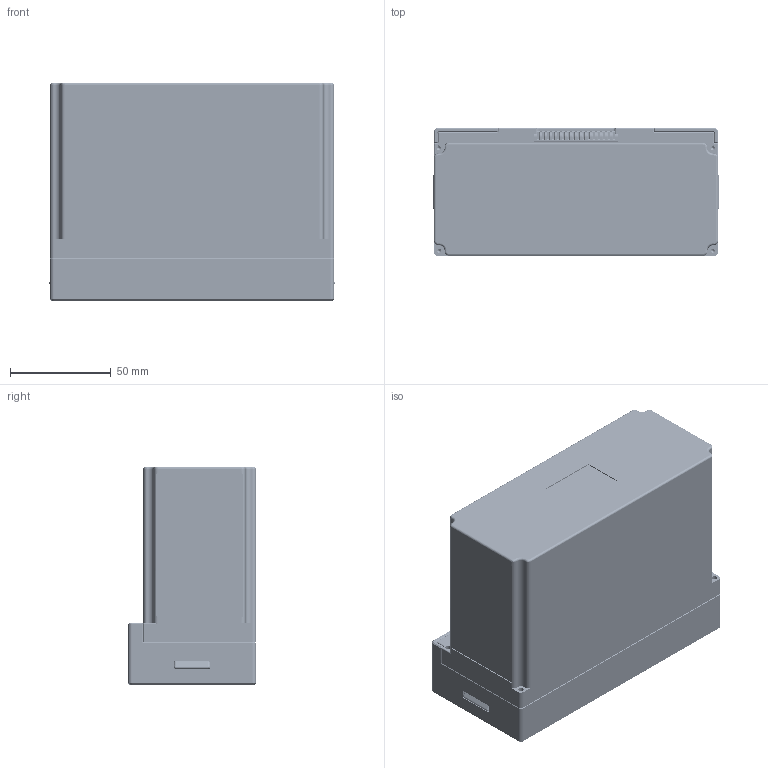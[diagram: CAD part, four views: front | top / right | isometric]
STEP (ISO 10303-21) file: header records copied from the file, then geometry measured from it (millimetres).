
FILE_DESCRIPTION (( 'STEP AP203' ), '1' );
FILE_NAME ('HTPW 01A-48vPower battery v1.STEP', '2025-06-23T15:37:23', ( '' ), ( '' ), 'SwSTEP 2.0', 'SolidWorks 2024', '' );
FILE_SCHEMA (( 'CONFIG_CONTROL_DESIGN' ));
Length unit declared in the file: millimetre
Products named in the file (44): U3~TQFP-48_L7.0-W7.0-P0.50-LS9.0-TL~TQFP-48_L7.0-W7.0-H1.2-LS9.0-P0.50~kTTu.step; RS1~R2512~R2512_L6.3-W3.2-H0.6~kTTu.step; R1~R1206~R1206_L3.2-W1.6-H0.6~kTTu_2.step; U1~M2-D2.8-BD4.4~M2-D2.8-BD4.4~kTTu_1.step; D8~SMC_L7.1-W6.2-LS8.1-RD~SMC_L7.1-W6.2-LS8.1-RD~kTTu.step; H3~battery-female-TH_16P-P2.50-H-M-W3.5~.step; R1~R1206~R1206_L3.2-W1.6-H0.6~kTTu_1.step; CN4~SMD--1_L5.0-W2.0~SMD--1_L5.0-W2.0~kTTu_3.step; D7~SMB_L4.6-W3.6-LS5.3-RD~SMB_L4.6-W3.6-LS5.3-RD~kTTu.step; CN2~CONN-SMD_2P-P1.25_X1251WRS-02HF-LPSW~CONN-SMD_GH1.25-WS-2P~kTTu.step; Board~kTTu.step; R1~R1206~R1206_L3.2-W1.6-H0.6~kTTu.step; R1~R1206~R1206_L3.2-W1.6-H0.6~kTTu_4.step; L1~IND-SMD_L7.1-W6.6-1~IND-SMD_L7.1-W6.6-1~kTTu.step; CN4~SMD--1_L5.0-W2.0~SMD--1_L5.0-W2.0~kTTu_2.step; HTPW 48PW-02A-电池上盖.step; SMD--1_L5.0-W2.0~SMD--1_L5.0-W2.0~kTTu.step; Q13~SOT-89-3_L4.5-W2.5-P1.50-LS4.2-TR~SOT-89-3_L4.3-W2.5-H1.6-LS4.1-P1.50~kTTu.step; HTPW 01A-48vPower battery v1.step; TO-263-3_L10.1-W9.0-P5.08-LS15.2-BL~TO-263-3_L10.1-W9.0-P5.08-LS15.2-BL~kTTu.step; TQFP-48_L7.0-W7.0-P0.50-LS9.0-TL~TQFP-48_L7.0-W7.0-H1.2-LS9.0-P0.50~kTTu.step; HTPW 48PW-02A-电池下壳.step; Q3~TO-263-3_L10.1-W9.0-P5.08-LS15.2-BL~TO-263-3_L10.1-W9.0-P5.08-LS15.2-BL~kTTu_1.step; HTPW 48PW-02A-电池卡舌.step; CN4~SMD--1_L5.0-W2.0~SMD--1_L5.0-W2.0~kTTu_1.step; R1~R1206~R1206_L3.2-W1.6-H0.6~kTTu_3.step; IND-SMD_L7.1-W6.6-1~IND-SMD_L7.1-W6.6-1~kTTu.step; SOT-89-3_L4.5-W2.5-P1.50-LS4.2-TR~SOT-89-3_L4.3-W2.5-H1.6-LS4.1-P1.50~kTTu.step; SMC_L7.1-W6.2-LS8.1-RD~SMC_L7.1-W6.2-LS8.1-RD~kTTu.step; R2512~R2512_L6.3-W3.2-H0.6~kTTu.step; EasyEDA PCB Model~kTTu.step; LGF4118-L7.0雾白.step; LQFP-48_L7.0-W7.0-P0.50-LS9.0-BL~LQFP-48_L7.0-W7.0-H1.4-LS9.0-P0.50~kTTu.step; HTPW 48PW-02A-卡舌盖板.step; HTPW 01A-48vPower battery v1; CONN-SMD_2P-P1.25_X1251WRS-02HF-LPSW~CONN-SMD_GH1.25-WS-2P~kTTu.step; SMB_L4.6-W3.6-LS5.3-RD~SMB_L4.6-W3.6-LS5.3-RD~kTTu.step; U8~LQFP-48_L7.0-W7.0-P0.50-LS9.0-BL~LQFP-48_L7.0-W7.0-H1.4-LS9.0-P0.50~kTTu.step; battery-female-TH_16P-P2.50-H-M-W3.5~.step; HTPW 48PW-02A-电池按钮.step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
Assembly tree (54 placements, depth 5):
  HTPW 01A-48vPower battery v1
    HTPW 01A-48vPower battery v1.step
      EasyEDA PCB Model~kTTu.step
        CN2~CONN-SMD_2P-P1.25_X1251WRS-02HF-LPSW~CONN-SMD_GH1.25-WS-2P~kTTu.step
          CONN-SMD_2P-P1.25_X1251WRS-02HF-LPSW~CONN-SMD_GH1.25-WS-2P~kTTu.step
        L1~IND-SMD_L7.1-W6.6-1~IND-SMD_L7.1-W6.6-1~kTTu.step
          IND-SMD_L7.1-W6.6-1~IND-SMD_L7.1-W6.6-1~kTTu.step
        D8~SMC_L7.1-W6.2-LS8.1-RD~SMC_L7.1-W6.2-LS8.1-RD~kTTu.step
          SMC_L7.1-W6.2-LS8.1-RD~SMC_L7.1-W6.2-LS8.1-RD~kTTu.step
        D7~SMB_L4.6-W3.6-LS5.3-RD~SMB_L4.6-W3.6-LS5.3-RD~kTTu.step
          SMB_L4.6-W3.6-LS5.3-RD~SMB_L4.6-W3.6-LS5.3-RD~kTTu.step
        Q13~SOT-89-3_L4.5-W2.5-P1.50-LS4.2-TR~SOT-89-3_L4.3-W2.5-H1.6-LS4.1-P1.50~kTTu.step
          SOT-89-3_L4.5-W2.5-P1.50-LS4.2-TR~SOT-89-3_L4.3-W2.5-H1.6-LS4.1-P1.50~kTTu.step
        R1~R1206~R1206_L3.2-W1.6-H0.6~kTTu.step
          R1206~R1206_L3.2-W1.6-H0.6~kTTu.step
        RS1~R2512~R2512_L6.3-W3.2-H0.6~kTTu.step
          R2512~R2512_L6.3-W3.2-H0.6~kTTu.step
        H3~battery-female-TH_16P-P2.50-H-M-W3.5~.step
          battery-female-TH_16P-P2.50-H-M-W3.5~.step
        U3~TQFP-48_L7.0-W7.0-P0.50-LS9.0-TL~TQFP-48_L7.0-W7.0-H1.2-LS9.0-P0.50~kTTu.step
          TQFP-48_L7.0-W7.0-P0.50-LS9.0-TL~TQFP-48_L7.0-W7.0-H1.2-LS9.0-P0.50~kTTu.step
        U8~LQFP-48_L7.0-W7.0-P0.50-LS9.0-BL~LQFP-48_L7.0-W7.0-H1.4-LS9.0-P0.50~kTTu.step
          LQFP-48_L7.0-W7.0-P0.50-LS9.0-BL~LQFP-48_L7.0-W7.0-H1.4-LS9.0-P0.50~kTTu.step
        Q3~TO-263-3_L10.1-W9.0-P5.08-LS15.2-BL~TO-263-3_L10.1-W9.0-P5.08-LS15.2-BL~kTTu_1.step
          TO-263-3_L10.1-W9.0-P5.08-LS15.2-BL~TO-263-3_L10.1-W9.0-P5.08-LS15.2-BL~kTTu.step
        R1~R1206~R1206_L3.2-W1.6-H0.6~kTTu_1.step
          R1206~R1206_L3.2-W1.6-H0.6~kTTu.step
        R1~R1206~R1206_L3.2-W1.6-H0.6~kTTu_2.step
          R1206~R1206_L3.2-W1.6-H0.6~kTTu.step
        R1~R1206~R1206_L3.2-W1.6-H0.6~kTTu_3.step
          R1206~R1206_L3.2-W1.6-H0.6~kTTu.step
        R1~R1206~R1206_L3.2-W1.6-H0.6~kTTu_4.step
          R1206~R1206_L3.2-W1.6-H0.6~kTTu.step
        CN4~SMD--1_L5.0-W2.0~SMD--1_L5.0-W2.0~kTTu_1.step
          SMD--1_L5.0-W2.0~SMD--1_L5.0-W2.0~kTTu.step
        CN4~SMD--1_L5.0-W2.0~SMD--1_L5.0-W2.0~kTTu_2.step
          SMD--1_L5.0-W2.0~SMD--1_L5.0-W2.0~kTTu.step
        CN4~SMD--1_L5.0-W2.0~SMD--1_L5.0-W2.0~kTTu_3.step
          SMD--1_L5.0-W2.0~SMD--1_L5.0-W2.0~kTTu.step
        U1~M2-D2.8-BD4.4~M2-D2.8-BD4.4~kTTu_1.step
          M2-D2.8-BD4.4~M2-D2.8-BD4.4~kTTu.step
        Board~kTTu.step
      21700电芯包-2x6排列-16p.step
      HTPW 48PW-02A-电池卡舌.step  x2
      HTPW 48PW-02A-电池上盖.step
      LGF4118-L7.0雾白.step  x4
      HTPW 48PW-02A-电池按钮.step
      HTPW 48PW-02A-电池下壳.step
      HTPW 48PW-02A-卡舌盖板.step  x2
      3D_48V-BMS-灯板_2025-05-27.step
Bounding box: 141.79 x 63.5 x 108.4 mm (x, y, z)
Volume: 627437.4 mm3; surface area: 211778.7 mm2
Topology: 213 solids, 213 shells, 30644 faces, 72768 edges, 43078 vertices
Faces by surface type: cylinder 10530, plane 10458, torus 5860, bspline 2764, sphere 744, cone 288
Entity records: 850851 total; most frequent: CARTESIAN_POINT 186290, DIRECTION 144365, ORIENTED_EDGE 134850, EDGE_CURVE 67425, AXIS2_PLACEMENT_3D 54508, VERTEX_POINT 39794, VECTOR 35349, LINE 35349
